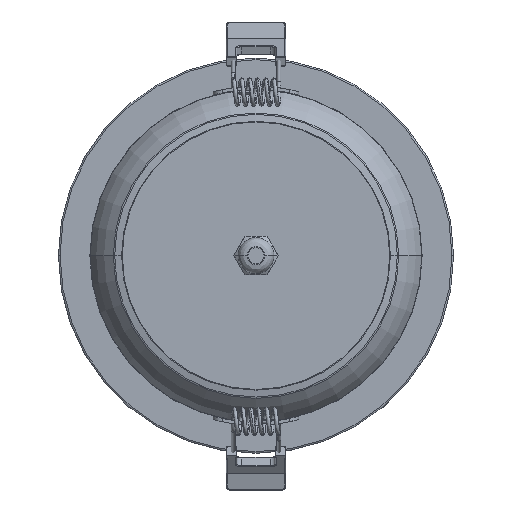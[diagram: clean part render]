
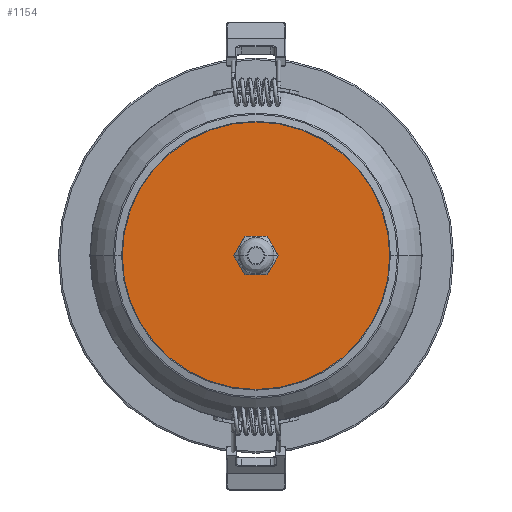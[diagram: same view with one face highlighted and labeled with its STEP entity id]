
A CAD part, front view. The second image highlights one B-rep face of the part: STEP entity #1154.
In plain terms, the highlighted planar face has unit normal (0, -1, 0).
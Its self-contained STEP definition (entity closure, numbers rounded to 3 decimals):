
#185=CARTESIAN_POINT('',(0.,-25.8,0.));
#186=DIRECTION('',(0.,-1.,0.));
#187=DIRECTION('',(1.,0.,0.));
#188=AXIS2_PLACEMENT_3D('',#185,#186,#187);
#193=CARTESIAN_POINT('',(0.,-25.8,0.));
#194=DIRECTION('',(0.,-1.,0.));
#195=DIRECTION('',(-1.,0.,0.));
#196=AXIS2_PLACEMENT_3D('',#193,#194,#195);
#201=DIRECTION('',(1.,0.,0.));
#202=VECTOR('',#201,6.928);
#203=CARTESIAN_POINT('',(-3.464,-25.8,-6.));
#204=LINE('',#203,#202);
#208=DIRECTION('',(0.5,0.,0.866));
#209=VECTOR('',#208,6.928);
#210=CARTESIAN_POINT('',(3.464,-25.8,-6.));
#211=LINE('',#210,#209);
#215=DIRECTION('',(-0.5,0.,0.866));
#216=VECTOR('',#215,6.928);
#217=CARTESIAN_POINT('',(6.928,-25.8,0.));
#218=LINE('',#217,#216);
#222=DIRECTION('',(-1.,0.,0.));
#223=VECTOR('',#222,6.928);
#224=CARTESIAN_POINT('',(3.464,-25.8,6.));
#225=LINE('',#224,#223);
#229=DIRECTION('',(-0.5,0.,-0.866));
#230=VECTOR('',#229,6.928);
#231=CARTESIAN_POINT('',(-3.464,-25.8,6.));
#232=LINE('',#231,#230);
#236=DIRECTION('',(0.5,0.,-0.866));
#237=VECTOR('',#236,6.928);
#238=CARTESIAN_POINT('',(-6.928,-25.8,0.));
#239=LINE('',#238,#237);
#795=CARTESIAN_POINT('',(41.6,-25.8,0.));
#796=CARTESIAN_POINT('',(-41.6,-25.8,0.));
#797=VERTEX_POINT('',#795);
#798=VERTEX_POINT('',#796);
#819=CARTESIAN_POINT('',(-3.464,-25.8,-6.));
#820=CARTESIAN_POINT('',(3.464,-25.8,-6.));
#821=VERTEX_POINT('',#819);
#822=VERTEX_POINT('',#820);
#823=CARTESIAN_POINT('',(6.928,-25.8,0.));
#824=VERTEX_POINT('',#823);
#825=CARTESIAN_POINT('',(3.464,-25.8,6.));
#826=VERTEX_POINT('',#825);
#827=CARTESIAN_POINT('',(-3.464,-25.8,6.));
#828=VERTEX_POINT('',#827);
#829=CARTESIAN_POINT('',(-6.928,-25.8,0.));
#830=VERTEX_POINT('',#829);
#1130=CARTESIAN_POINT('',(0.,-25.8,0.));
#1131=DIRECTION('',(0.,-1.,0.));
#1132=DIRECTION('',(1.,0.,0.));
#1133=AXIS2_PLACEMENT_3D('',#1130,#1131,#1132);
#1134=PLANE('',#1133);
#1136=ORIENTED_EDGE('',*,*,#1135,.F.);
#1137=ORIENTED_EDGE('',*,*,#1113,.F.);
#1138=EDGE_LOOP('',(#1136,#1137));
#1139=FACE_OUTER_BOUND('',#1138,.F.);
#1141=ORIENTED_EDGE('',*,*,#1140,.T.);
#1143=ORIENTED_EDGE('',*,*,#1142,.T.);
#1145=ORIENTED_EDGE('',*,*,#1144,.T.);
#1147=ORIENTED_EDGE('',*,*,#1146,.T.);
#1149=ORIENTED_EDGE('',*,*,#1148,.T.);
#1151=ORIENTED_EDGE('',*,*,#1150,.T.);
#1152=EDGE_LOOP('',(#1141,#1143,#1145,#1147,#1149,#1151));
#1153=FACE_BOUND('',#1152,.F.);
#1154=ADVANCED_FACE('',(#1139,#1153),#1134,.T.);
#189=CIRCLE('',#188,41.6);
#197=CIRCLE('',#196,41.6);
#1113=EDGE_CURVE('',#798,#797,#197,.T.);
#1135=EDGE_CURVE('',#797,#798,#189,.T.);
#1140=EDGE_CURVE('',#821,#822,#204,.T.);
#1142=EDGE_CURVE('',#822,#824,#211,.T.);
#1144=EDGE_CURVE('',#824,#826,#218,.T.);
#1146=EDGE_CURVE('',#826,#828,#225,.T.);
#1148=EDGE_CURVE('',#828,#830,#232,.T.);
#1150=EDGE_CURVE('',#830,#821,#239,.T.);
